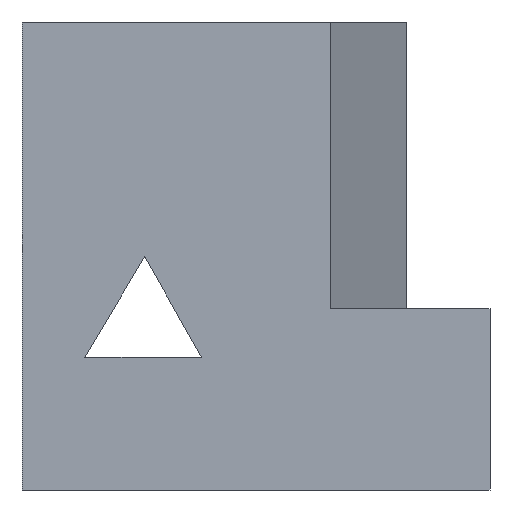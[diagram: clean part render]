
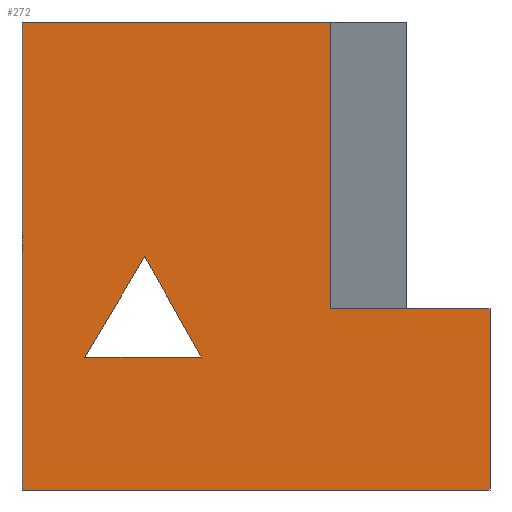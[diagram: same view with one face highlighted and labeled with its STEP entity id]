
A CAD part, left-side view. The second image highlights one B-rep face of the part: STEP entity #272.
In plain terms, the highlighted planar face has unit normal (-1, 0, 0).
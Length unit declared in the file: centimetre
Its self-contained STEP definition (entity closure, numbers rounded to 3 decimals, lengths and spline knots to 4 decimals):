
#5 = VECTOR ( 'NONE', #50, 100. ) ;
#7 = ORIENTED_EDGE ( 'NONE', *, *, #401, .F. ) ;
#15 = EDGE_LOOP ( 'NONE', ( #423, #524, #189 ) ) ;
#16 = LINE ( 'NONE', #335, #591 ) ;
#18 = LINE ( 'NONE', #199, #231 ) ;
#20 = EDGE_CURVE ( 'NONE', #183, #469, #531, .T. ) ;
#31 = CARTESIAN_POINT ( 'NONE',  ( 0., 340.5318, 387.2802 ) ) ;
#47 = VERTEX_POINT ( 'NONE', #206 ) ;
#48 = LINE ( 'NONE', #232, #543 ) ;
#50 = DIRECTION ( 'NONE',  ( 0., 0., -1. ) ) ;
#52 = EDGE_CURVE ( 'NONE', #469, #191, #258, .T. ) ;
#55 = DIRECTION ( 'NONE',  ( 0., -1., 0. ) ) ;
#58 = VERTEX_POINT ( 'NONE', #395 ) ;
#66 = FACE_OUTER_BOUND ( 'NONE', #296, .T. ) ;
#83 = EDGE_CURVE ( 'NONE', #342, #47, #355, .T. ) ;
#90 = ORIENTED_EDGE ( 'NONE', *, *, #187, .T. ) ;
#106 = LINE ( 'NONE', #110, #486 ) ;
#110 = CARTESIAN_POINT ( 'NONE',  ( 0., 1000., 1000. ) ) ;
#131 = ORIENTED_EDGE ( 'NONE', *, *, #446, .F. ) ;
#136 = CARTESIAN_POINT ( 'NONE',  ( 0., 737.7768, 498.1255 ) ) ;
#142 = VERTEX_POINT ( 'NONE', #248 ) ;
#147 = CARTESIAN_POINT ( 'NONE',  ( 0., 865.9718, 283.756 ) ) ;
#183 = VERTEX_POINT ( 'NONE', #136 ) ;
#187 = EDGE_CURVE ( 'NONE', #278, #142, #18, .T. ) ;
#188 = CARTESIAN_POINT ( 'NONE',  ( 0., 340.5318, 387.2802 ) ) ;
#189 = ORIENTED_EDGE ( 'NONE', *, *, #52, .F. ) ;
#191 = VERTEX_POINT ( 'NONE', #324 ) ;
#193 = DIRECTION ( 'NONE',  ( 0., -1., 0. ) ) ;
#199 = CARTESIAN_POINT ( 'NONE',  ( 0., 1000., 0. ) ) ;
#206 = CARTESIAN_POINT ( 'NONE',  ( 0., 340.5318, 1000. ) ) ;
#216 = CARTESIAN_POINT ( 'NONE',  ( 0., 865.9718, 283.756 ) ) ;
#218 = VECTOR ( 'NONE', #526, 100. ) ;
#224 = VECTOR ( 'NONE', #402, 100. ) ;
#226 = EDGE_CURVE ( 'NONE', #58, #278, #334, .T. ) ;
#231 = VECTOR ( 'NONE', #55, 100. ) ;
#232 = CARTESIAN_POINT ( 'NONE',  ( 0., 340.5318, 387.2802 ) ) ;
#238 = VERTEX_POINT ( 'NONE', #582 ) ;
#248 = CARTESIAN_POINT ( 'NONE',  ( 0., 0., 0. ) ) ;
#258 = LINE ( 'NONE', #216, #218 ) ;
#272 = ADVANCED_FACE ( 'NONE', ( #539, #66 ), #441, .F. ) ;
#278 = VERTEX_POINT ( 'NONE', #302 ) ;
#286 = DIRECTION ( 'NONE',  ( 0., -1., 0. ) ) ;
#293 = ORIENTED_EDGE ( 'NONE', *, *, #83, .T. ) ;
#296 = EDGE_LOOP ( 'NONE', ( #131, #293, #519, #329, #90, #7 ) ) ;
#302 = CARTESIAN_POINT ( 'NONE',  ( 0., 1000., 0. ) ) ;
#307 = DIRECTION ( 'NONE',  ( 1., 0., 0. ) ) ;
#324 = CARTESIAN_POINT ( 'NONE',  ( 0., 616.2249, 283.756 ) ) ;
#329 = ORIENTED_EDGE ( 'NONE', *, *, #226, .T. ) ;
#334 = LINE ( 'NONE', #468, #5 ) ;
#335 = CARTESIAN_POINT ( 'NONE',  ( 0., 616.2249, 283.756 ) ) ;
#342 = VERTEX_POINT ( 'NONE', #188 ) ;
#355 = LINE ( 'NONE', #31, #583 ) ;
#395 = CARTESIAN_POINT ( 'NONE',  ( 0., 1000., 1000. ) ) ;
#401 = EDGE_CURVE ( 'NONE', #238, #142, #555, .T. ) ;
#402 = DIRECTION ( 'NONE',  ( 0., 0.513, -0.858 ) ) ;
#403 = CARTESIAN_POINT ( 'NONE',  ( 0., 1000., 1000. ) ) ;
#423 = ORIENTED_EDGE ( 'NONE', *, *, #20, .F. ) ;
#428 = CARTESIAN_POINT ( 'NONE',  ( 0., 0., 1000. ) ) ;
#436 = CARTESIAN_POINT ( 'NONE',  ( 0., 737.7768, 498.1255 ) ) ;
#441 = PLANE ( 'NONE',  #450 ) ;
#446 = EDGE_CURVE ( 'NONE', #342, #238, #48, .T. ) ;
#450 = AXIS2_PLACEMENT_3D ( 'NONE', #403, #307, #487 ) ;
#468 = CARTESIAN_POINT ( 'NONE',  ( 0., 1000., 1000. ) ) ;
#469 = VERTEX_POINT ( 'NONE', #147 ) ;
#486 = VECTOR ( 'NONE', #193, 100. ) ;
#487 = DIRECTION ( 'NONE',  ( 0., 0., -1. ) ) ;
#491 = EDGE_CURVE ( 'NONE', #191, #183, #16, .T. ) ;
#495 = EDGE_CURVE ( 'NONE', #58, #47, #106, .T. ) ;
#518 = DIRECTION ( 'NONE',  ( 0., 0.493, 0.87 ) ) ;
#519 = ORIENTED_EDGE ( 'NONE', *, *, #495, .F. ) ;
#524 = ORIENTED_EDGE ( 'NONE', *, *, #491, .F. ) ;
#526 = DIRECTION ( 'NONE',  ( 0., -1., 0. ) ) ;
#531 = LINE ( 'NONE', #436, #224 ) ;
#533 = VECTOR ( 'NONE', #562, 100. ) ;
#538 = DIRECTION ( 'NONE',  ( 0., 0., 1. ) ) ;
#539 = FACE_BOUND ( 'NONE', #15, .T. ) ;
#543 = VECTOR ( 'NONE', #286, 100. ) ;
#555 = LINE ( 'NONE', #428, #533 ) ;
#562 = DIRECTION ( 'NONE',  ( 0., 0., -1. ) ) ;
#582 = CARTESIAN_POINT ( 'NONE',  ( 0., 0., 387.2802 ) ) ;
#583 = VECTOR ( 'NONE', #538, 100. ) ;
#591 = VECTOR ( 'NONE', #518, 100. ) ;
